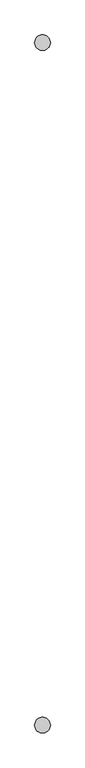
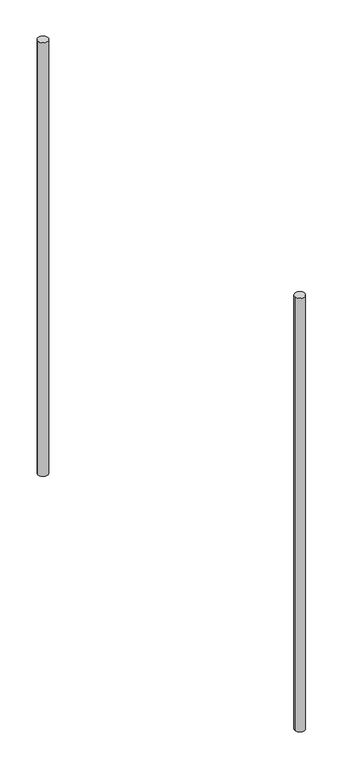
"""IFC4 building model written with IfcOpenShell, lengths in millimetres: railing geometry, Zaun."""

from ifc_helpers import new_model, si_unit, point, frame_2d, origin, origin_with_axes, place, context, project, spatial, circle_curve, trimmed, segment, composite_curve, outline, extrude, source, transform, mapped, element, save


def railing_d0e901f3(model_context):
    return source(origin(), model_context, "Body", "SweptSolid", [
        extrude(outline(composite_curve([segment(trimmed(circle_curve(frame_2d((46777.9264557, -32173.7411465)), 40.0), [point((46737.9264557, -32173.7411465))], [point((46817.9264557, -32173.7411465))], False, "CARTESIAN"), True, "CONTINUOUS"), segment(trimmed(circle_curve(frame_2d((46777.9264557, -32173.7411465)), 40.0), [point((46817.9264557, -32173.7411465))], [point((46737.9264557, -32173.7411465))], False, "CARTESIAN"), True, "CONTINUOUS")], self_intersect=False)), origin_with_axes(), (0.0, 0.0, 1.0), 3600.0),
        extrude(outline(composite_curve([segment(trimmed(circle_curve(frame_2d((46777.9264557, -35673.7411465)), 40.0), [point((46737.9264557, -35673.7411465))], [point((46817.9264557, -35673.7411465))], False, "CARTESIAN"), True, "CONTINUOUS"), segment(trimmed(circle_curve(frame_2d((46777.9264557, -35673.7411465)), 40.0), [point((46817.9264557, -35673.7411465))], [point((46737.9264557, -35673.7411465))], False, "CARTESIAN"), True, "CONTINUOUS")], self_intersect=False)), origin_with_axes(), (0.0, 0.0, 1.0), 3600.0),
    ])


if __name__ == "__main__":
    model = new_model("IFC4")
    model_context = context("Model", 3, world=origin())
    ifc_project = project(units=[si_unit("LENGTHUNIT", "METRE", prefix="MILLI")], contexts=[model_context])
    site = spatial("IfcSite", under=ifc_project)
    building = spatial("IfcBuilding", under=site)
    placement = place(None, origin())
    railing_shape = railing_d0e901f3(model_context)
    element("IfcRailing", 1, ObjectType="Zaun", at=placement, inside=building, context=model_context, shape_type="MappedRepresentation", body=[
        mapped(railing_shape, transform((0.0, 0.0, 0.0), x_axis=(1.0, 0.0, 0.0), y_axis=(0.0, 1.0, 0.0), z_axis=(0.0, 0.0, 1.0))),
    ])
    save(model, "model.ifc")
